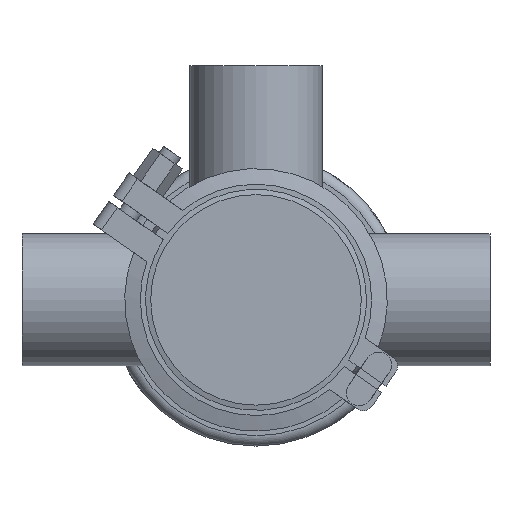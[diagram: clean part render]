
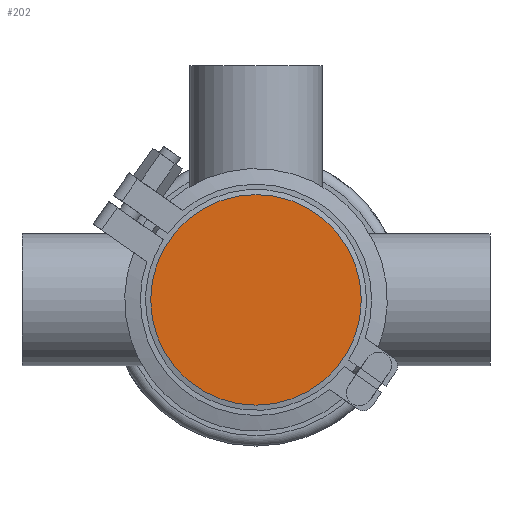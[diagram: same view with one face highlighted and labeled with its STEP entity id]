
A CAD part, front view. The second image highlights one B-rep face of the part: STEP entity #202.
In plain terms, the highlighted planar face has unit normal (0, -1, 0).
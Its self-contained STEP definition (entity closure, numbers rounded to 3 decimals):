
#202 = ADVANCED_FACE ( 'NONE', ( #10090 ), #13258, .T. ) ;
#253 = CIRCLE ( 'NONE', #12435, 40.5 ) ;
#3687 = CARTESIAN_POINT ( 'NONE',  ( 0., 0., 0. ) ) ;
#6585 = VERTEX_POINT ( 'NONE', #7907 ) ;
#6612 = DIRECTION ( 'NONE',  ( 0., 0., 1. ) ) ;
#7907 = CARTESIAN_POINT ( 'NONE',  ( 0., 0., 40.5 ) ) ;
#10090 = FACE_OUTER_BOUND ( 'NONE', #13653, .T. ) ;
#12435 = AXIS2_PLACEMENT_3D ( 'NONE', #3687, #21426, #6612 ) ;
#12993 = ORIENTED_EDGE ( 'NONE', *, *, #14562, .F. ) ;
#13258 = PLANE ( 'NONE',  #17239 ) ;
#13360 = CARTESIAN_POINT ( 'NONE',  ( -40.5, 0., 0. ) ) ;
#13653 = EDGE_LOOP ( 'NONE', ( #12993 ) ) ;
#14562 = EDGE_CURVE ( 'NONE', #6585, #6585, #253, .T. ) ;
#15215 = DIRECTION ( 'NONE',  ( 0., 0., -1. ) ) ;
#17239 = AXIS2_PLACEMENT_3D ( 'NONE', #13360, #21306, #15215 ) ;
#21306 = DIRECTION ( 'NONE',  ( 0., -1., 0. ) ) ;
#21426 = DIRECTION ( 'NONE',  ( 0., 1., 0. ) ) ;
